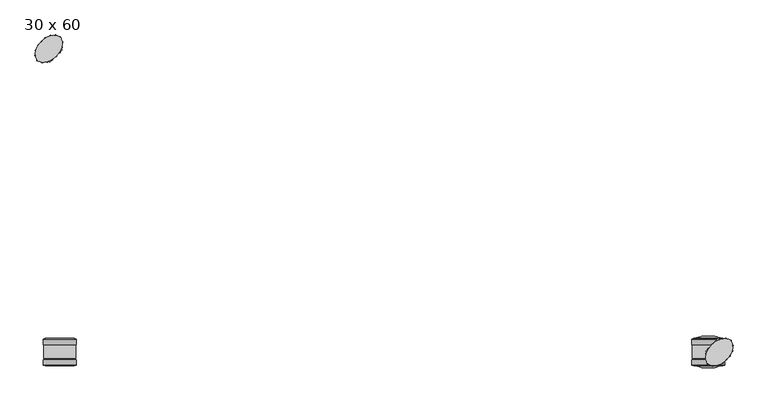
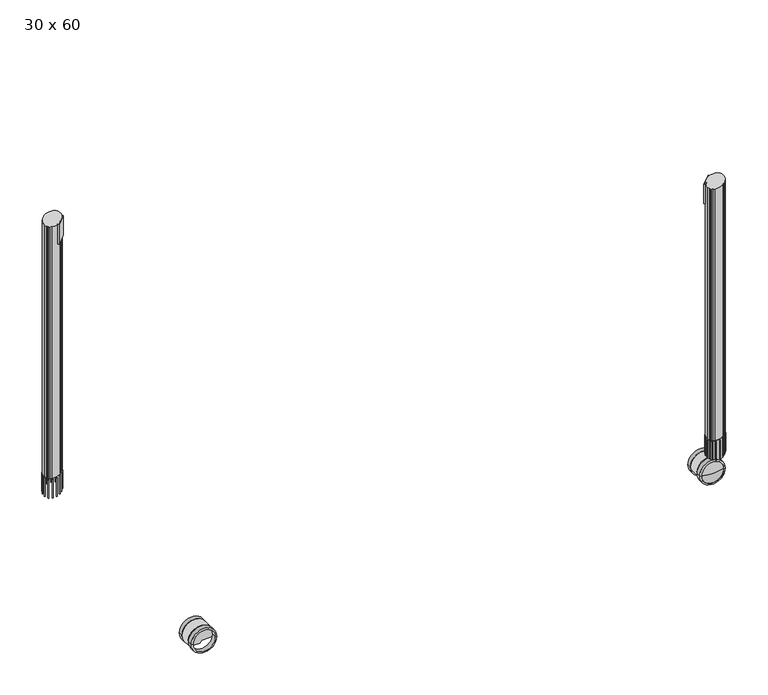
"""IFC4 building model written with IfcOpenShell, lengths in millimetres: furniture geometry, SmithSystem_AM_Desking_Education_Interchange_Student_Activity : 30 x 60."""

from ifc_helpers import new_model, si_unit, point, frame, frame_2d, origin, place, context, project, spatial, polyline, circle_curve, ellipse_curve, trimmed, segment, composite_curve, outline, extrude, source, transform, mapped, element, save
from ifc_brep_helpers import plane_surface, cylinder_surface, revolved_surface, advanced_brep


def furniture_30_x_60_d453b8d4(model_context):
    return source(origin(), model_context, "Body", "SolidModel", [
        extrude(outline(composite_curve([segment(trimmed(circle_curve(frame_2d((36.1138255, 717.7012908)), 1.27), [point((35.2157999, 716.8032652))], [point((37.0118511, 718.5993164))], False, "CARTESIAN"), True, "CONTINUOUS"), segment(polyline([(37.0118511, 718.5993164), (36.1138255, 717.7012908), (35.2157999, 716.8032652)]), True, "CONTINUOUS")], self_intersect=False)), frame((0.0, 0.0, 67.2639757), z_axis=(0.0, 0.0, 1.0), x_axis=(1.0, 0.0, 0.0)), (0.0, 0.0, 1.0), 52.9554897),
        extrude(outline(composite_curve([segment(trimmed(circle_curve(frame_2d((27.2784407, 678.3403563)), 1.27), [point((28.1764663, 677.4423306))], [point((26.3804151, 679.2383819))], False, "CARTESIAN"), True, "CONTINUOUS"), segment(polyline([(26.3804151, 679.2383819), (27.2784407, 678.3403563), (28.1764663, 677.4423306)]), True, "CONTINUOUS")], self_intersect=False)), frame((0.0, 0.0, 67.2639757), z_axis=(0.0, 0.0, 1.0), x_axis=(1.0, 0.0, 0.0)), (0.0, 0.0, 1.0), 52.9554897),
        extrude(outline(composite_curve([segment(polyline([(76.3727856, 725.63865), (75.47476, 726.5366756), (74.5767344, 727.4347012)]), True, "CONTINUOUS"), segment(trimmed(circle_curve(frame_2d((75.47476, 726.5366756)), 1.27), [point((74.5767344, 727.4347012))], [point((76.3727856, 725.63865))], False, "CARTESIAN"), True, "CONTINUOUS")], self_intersect=False)), frame((0.0, 0.0, 67.2639757), z_axis=(0.0, 0.0, 1.0), x_axis=(1.0, 0.0, 0.0)), (0.0, 0.0, 1.0), 52.9554897),
        extrude(outline(composite_curve([segment(polyline([(66.874417, 730.5560515), (65.6084721, 730.6574596), (64.3425272, 730.7588676)]), True, "CONTINUOUS"), segment(trimmed(circle_curve(frame_2d((65.6084721, 730.6574596)), 1.27), [point((64.3425272, 730.7588676))], [point((66.874417, 730.5560515))], False, "CARTESIAN"), True, "CONTINUOUS")], self_intersect=False)), frame((0.0, 0.0, 67.2639757), z_axis=(0.0, 0.0, 1.0), x_axis=(1.0, 0.0, 0.0)), (0.0, 0.0, 1.0), 52.9554897),
        extrude(outline(composite_curve([segment(polyline([(55.7954927, 730.039674), (54.5655031, 729.7234059), (53.3355135, 729.4071377)]), True, "CONTINUOUS"), segment(trimmed(circle_curve(frame_2d((54.5655031, 729.7234059)), 1.27), [point((53.3355135, 729.4071377))], [point((55.7954927, 730.039674))], False, "CARTESIAN"), True, "CONTINUOUS")], self_intersect=False)), frame((0.0, 0.0, 67.2639757), z_axis=(0.0, 0.0, 1.0), x_axis=(1.0, 0.0, 0.0)), (0.0, 0.0, 1.0), 52.9554897),
        extrude(outline(composite_curve([segment(polyline([(45.4570451, 725.8418329), (44.409403, 725.1239568), (43.3617609, 724.4060807)]), True, "CONTINUOUS"), segment(trimmed(circle_curve(frame_2d((44.409403, 725.1239568)), 1.27), [point((43.3617609, 724.4060807))], [point((45.4570451, 725.8418329))], False, "CARTESIAN"), True, "CONTINUOUS")], self_intersect=False)), frame((0.0, 0.0, 67.2639757), z_axis=(0.0, 0.0, 1.0), x_axis=(1.0, 0.0, 0.0)), (0.0, 0.0, 1.0), 52.9554897),
        extrude(outline(composite_curve([segment(trimmed(circle_curve(frame_2d((23.1576567, 688.2066442)), 1.27), [point((23.2590648, 686.9406993))], [point((23.0562487, 689.4725891))], False, "CARTESIAN"), True, "CONTINUOUS"), segment(polyline([(23.0562487, 689.4725891), (23.1576567, 688.2066442), (23.2590648, 686.9406993)]), True, "CONTINUOUS")], self_intersect=False)), frame((0.0, 0.0, 67.2639757), z_axis=(0.0, 0.0, 1.0), x_axis=(1.0, 0.0, 0.0)), (0.0, 0.0, 1.0), 52.9554897),
        extrude(outline(composite_curve([segment(trimmed(circle_curve(frame_2d((24.0917104, 699.2496132)), 1.27), [point((23.7754423, 698.0196236))], [point((24.4079786, 700.4796028))], False, "CARTESIAN"), True, "CONTINUOUS"), segment(polyline([(24.4079786, 700.4796028), (24.0917104, 699.2496132), (23.7754423, 698.0196236)]), True, "CONTINUOUS")], self_intersect=False)), frame((0.0, 0.0, 67.2639757), z_axis=(0.0, 0.0, 1.0), x_axis=(1.0, 0.0, 0.0)), (0.0, 0.0, 1.0), 52.9554897),
        extrude(outline(composite_curve([segment(trimmed(circle_curve(frame_2d((28.6911595, 709.4057133)), 1.27), [point((27.9732834, 708.3580712))], [point((29.4090356, 710.4533554))], False, "CARTESIAN"), True, "CONTINUOUS"), segment(polyline([(29.4090356, 710.4533554), (28.6911595, 709.4057133), (27.9732834, 708.3580712)]), True, "CONTINUOUS")], self_intersect=False)), frame((0.0, 0.0, 67.2639757), z_axis=(0.0, 0.0, 1.0), x_axis=(1.0, 0.0, 0.0)), (0.0, 0.0, 1.0), 52.9554897),
        extrude(outline(composite_curve([segment(polyline([(65.7413496, 686.2777154), (66.6393752, 687.175741), (67.5374009, 688.0737667)]), True, "CONTINUOUS"), segment(trimmed(circle_curve(frame_2d((66.6393752, 687.175741)), 1.27), [point((67.5374009, 688.0737667))], [point((65.7413496, 686.2777154))], False, "CARTESIAN"), True, "CONTINUOUS")], self_intersect=False)), frame((0.0, 0.0, 67.2639757), z_axis=(0.0, 0.0, 1.0), x_axis=(1.0, 0.0, 0.0)), (0.0, 0.0, 1.0), 52.9554897),
        extrude(outline(composite_curve([segment(trimmed(circle_curve(frame_2d((79.595544, 716.6703877)), 1.27), [point((79.4941359, 717.9363325))], [point((79.696952, 715.4044428))], False, "CARTESIAN"), True, "CONTINUOUS"), segment(polyline([(79.696952, 715.4044428), (79.595544, 716.6703877), (79.4941359, 717.9363325)]), True, "CONTINUOUS")], self_intersect=False)), frame((0.0, 0.0, 67.2639757), z_axis=(0.0, 0.0, 1.0), x_axis=(1.0, 0.0, 0.0)), (0.0, 0.0, 1.0), 52.9554897),
        extrude(outline(composite_curve([segment(trimmed(circle_curve(frame_2d((78.6614903, 705.6274187)), 1.27), [point((78.9777584, 706.8574083))], [point((78.3452221, 704.397429))], False, "CARTESIAN"), True, "CONTINUOUS"), segment(polyline([(78.3452221, 704.397429), (78.6614903, 705.6274187), (78.9777584, 706.8574083)]), True, "CONTINUOUS")], self_intersect=False)), frame((0.0, 0.0, 67.2639757), z_axis=(0.0, 0.0, 1.0), x_axis=(1.0, 0.0, 0.0)), (0.0, 0.0, 1.0), 52.9554897),
        extrude(outline(composite_curve([segment(trimmed(circle_curve(frame_2d((74.0620412, 695.4713185)), 1.27), [point((74.7799173, 696.5189606))], [point((73.3441651, 694.4236765))], False, "CARTESIAN"), True, "CONTINUOUS"), segment(polyline([(73.3441651, 694.4236765), (74.0620412, 695.4713185), (74.7799173, 696.5189606)]), True, "CONTINUOUS")], self_intersect=False)), frame((0.0, 0.0, 67.2639757), z_axis=(0.0, 0.0, 1.0), x_axis=(1.0, 0.0, 0.0)), (0.0, 0.0, 1.0), 52.9554897),
        extrude(outline(composite_curve([segment(polyline([(35.8787838, 674.3209803), (37.1447286, 674.2195723), (38.4106735, 674.1181643)]), True, "CONTINUOUS"), segment(trimmed(circle_curve(frame_2d((37.1447286, 674.2195723)), 1.27), [point((38.4106735, 674.1181643))], [point((35.8787838, 674.3209803))], False, "CARTESIAN"), True, "CONTINUOUS")], self_intersect=False)), frame((0.0, 0.0, 67.2639757), z_axis=(0.0, 0.0, 1.0), x_axis=(1.0, 0.0, 0.0)), (0.0, 0.0, 1.0), 52.9554897),
        extrude(outline(composite_curve([segment(polyline([(46.957708, 674.8373578), (48.1876976, 675.153626), (49.4176872, 675.4698941)]), True, "CONTINUOUS"), segment(trimmed(circle_curve(frame_2d((48.1876976, 675.153626)), 1.27), [point((49.4176872, 675.4698941))], [point((46.957708, 674.8373578))], False, "CARTESIAN"), True, "CONTINUOUS")], self_intersect=False)), frame((0.0, 0.0, 67.2639757), z_axis=(0.0, 0.0, 1.0), x_axis=(1.0, 0.0, 0.0)), (0.0, 0.0, 1.0), 52.9554897),
        extrude(outline(composite_curve([segment(polyline([(57.2961557, 679.035199), (58.3437977, 679.7530751), (59.3914398, 680.4709511)]), True, "CONTINUOUS"), segment(trimmed(circle_curve(frame_2d((58.3437977, 679.7530751)), 1.27), [point((59.3914398, 680.4709511))], [point((57.2961557, 679.035199))], False, "CARTESIAN"), True, "CONTINUOUS")], self_intersect=False)), frame((0.0, 0.0, 67.2639757), z_axis=(0.0, 0.0, 1.0), x_axis=(1.0, 0.0, 0.0)), (0.0, 0.0, 1.0), 52.9554897),
        extrude(outline(composite_curve([segment(trimmed(circle_curve(frame_2d((62.7473847, 698.2519365)), 32.5855406), [point((39.7059279, 721.2933933))], [point((66.7185631, 730.5945895))], False, "CARTESIAN"), True, "CONTINUOUS"), segment(trimmed(circle_curve(frame_2d((64.3208331, 711.0666455)), 19.6745954), [point((66.7185631, 730.5945895))], [point((71.8715833, 729.2346359))], False, "CARTESIAN"), True, "CONTINUOUS"), segment(trimmed(circle_curve(frame_2d((68.4363296, 720.9690127)), 8.9510611), [point((71.8715833, 729.2346359))], [point((74.7656856, 727.2983687))], False, "CARTESIAN"), True, "CONTINUOUS"), segment(polyline([(74.7656856, 727.2983687), (75.5010694, 726.5629849), (76.2364532, 725.8276012)]), True, "CONTINUOUS"), segment(trimmed(circle_curve(frame_2d((69.9070972, 719.4982452)), 8.9510611), [point((76.2364532, 725.8276012))], [point((78.1727203, 722.9334989))], False, "CARTESIAN"), True, "CONTINUOUS"), segment(trimmed(circle_curve(frame_2d((60.0047299, 715.3827486)), 19.6745954), [point((78.1727203, 722.9334989))], [point((79.5326739, 717.7804787))], False, "CARTESIAN"), True, "CONTINUOUS"), segment(trimmed(circle_curve(frame_2d((47.190021, 713.8093002)), 32.5855406), [point((79.5326739, 717.7804787))], [point((70.2314777, 690.7678435))], False, "CARTESIAN"), True, "CONTINUOUS"), segment(polyline([(70.2314777, 690.7678435), (66.6393752, 687.175741), (63.0472728, 683.5836386)]), True, "CONTINUOUS"), segment(trimmed(circle_curve(frame_2d((40.0058161, 706.6250953)), 32.5855406), [point((63.0472728, 683.5836386))], [point((36.0346376, 674.2824424))], False, "CARTESIAN"), True, "CONTINUOUS"), segment(trimmed(circle_curve(frame_2d((38.4323677, 693.8103864)), 19.6745954), [point((36.0346376, 674.2824424))], [point((30.8816174, 675.6423959))], False, "CARTESIAN"), True, "CONTINUOUS"), segment(trimmed(circle_curve(frame_2d((34.3168711, 683.9080191)), 8.9510611), [point((30.8816174, 675.6423959))], [point((27.9875151, 677.5786631))], False, "CARTESIAN"), True, "CONTINUOUS"), segment(polyline([(27.9875151, 677.5786631), (27.2521313, 678.3140469), (26.5167476, 679.0494307)]), True, "CONTINUOUS"), segment(trimmed(circle_curve(frame_2d((32.8461036, 685.3787867)), 8.9510611), [point((26.5167476, 679.0494307))], [point((24.5804804, 681.943533))], False, "CARTESIAN"), True, "CONTINUOUS"), segment(trimmed(circle_curve(frame_2d((42.7484708, 689.4942832)), 19.6745954), [point((24.5804804, 681.943533))], [point((23.2205268, 687.0965532))], False, "CARTESIAN"), True, "CONTINUOUS"), segment(trimmed(circle_curve(frame_2d((55.5631798, 691.0677316)), 32.5855406), [point((23.2205268, 687.0965532))], [point((32.521723, 714.1091884))], False, "CARTESIAN"), True, "CONTINUOUS"), segment(polyline([(32.521723, 714.1091884), (36.1138255, 717.7012908), (39.7059279, 721.2933933)]), True, "CONTINUOUS")], self_intersect=False)), frame((0.0, 0.0, 122.9260451), z_axis=(0.0, 0.0, 1.0), x_axis=(1.0, 0.0, 0.0)), (0.0, 0.0, 1.0), 719.5839191),
        extrude(outline(polyline([(50.0797748, 676.8390473), (76.921403, 703.6806755), (80.2662632, 700.3358152), (53.4246351, 673.4941871), (50.0797748, 676.8390473)])), frame((0.0, 0.0, 786.4834421), z_axis=(0.0, 0.0, 1.0), x_axis=(1.0, 0.0, 0.0)), (0.0, 0.0, 1.0), 56.0265221),
        advanced_brep(
        [(1479.3682807, 75.4828432, 35.017382), (1479.3682807, 88.7241133, 35.017382), (1418.7629669, 88.7241133, 35.017382), (1418.7629669, 75.4828432, 35.017382), (1483.6326573, 75.4828432, 35.017382), (1414.4985903, 75.4828432, 35.017382), (1483.6326573, 87.2525266, 35.017382), (1414.4985903, 87.2525266, 35.017382)],
        [
            (0, 1),
            (1, 2, circle_curve(frame((1449.0656238, 88.7241133, 35.017382), z_axis=(0.0, 1.0, 0.0), x_axis=(-1.0000000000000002, 0.0, 0.0)), 30.3026569)),
            (2, 3),
            (3, 0, circle_curve(frame((1449.0656238, 75.4828432, 35.017382), z_axis=(0.0, -1.0, 0.0), x_axis=(-1.0000000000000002, 0.0, 0.0)), 30.3026569)),
            (2, 1, circle_curve(frame((1449.0656238, 88.7241133, 35.017382), z_axis=(0.0, 1.0, 0.0), x_axis=(-1.0000000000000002, 0.0, 0.0)), 30.3026569)),
            (0, 3, circle_curve(frame((1449.0656238, 75.4828432, 35.017382), z_axis=(0.0, -1.0, 0.0), x_axis=(-1.0000000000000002, 0.0, 0.0)), 30.3026569)),
            (4, 0),
            (3, 5),
            (5, 4, circle_curve(frame((1449.0656238, 75.4828432, 35.017382), z_axis=(0.0, -1.0, 0.0), x_axis=(-1.0000000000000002, 0.0, 0.0)), 34.5670335)),
            (4, 5, circle_curve(frame((1449.0656238, 75.4828432, 35.017382), z_axis=(0.0, -1.0, 0.0), x_axis=(-1.0000000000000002, 0.0, 0.0)), 34.5670335)),
            (6, 4),
            (5, 7),
            (7, 6, circle_curve(frame((1449.0656238, 87.2525266, 35.017382), z_axis=(0.0, -1.0, 0.0), x_axis=(-1.0000000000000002, 0.0, 0.0)), 34.5670335)),
            (6, 7, circle_curve(frame((1449.0656238, 87.2525266, 35.017382), z_axis=(0.0, -1.0, 0.0), x_axis=(-1.0000000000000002, 0.0, 0.0)), 34.5670335)),
            (1, 6),
            (7, 2),
        ],
        [
            revolved_surface(polyline([(1418.7629668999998, 88.7241133, 35.017382), (1418.7629668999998, 75.4828432, 35.017382)]), (1449.0656238, 75.4828432, 35.017382), (0.0, 1.0, 0.0)),
            plane_surface(frame((1449.0656238, 75.4828432, 35.017382), z_axis=(0.0, -1.0, 0.0), x_axis=(-1.0, 0.0, 0.0))),
            cylinder_surface(frame((1449.0656238, 75.4828432, 35.017382), z_axis=(0.0, 1.0, 0.0), x_axis=(-1.0000000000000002, 0.0, 0.0)), 34.5670335),
            revolved_surface(polyline([(1414.4985903, 87.2525266, 35.017382), (1418.7629669, 88.7241133, 35.017382)]), (1449.0656238, 75.4828432, 35.017382), (0.0, 1.0, 0.0)),
        ],
        [
            (0, [[1, 2, 3, 4]]),
            (0, [[-3, 5, -1, 6]]),
            (1, [[7, -4, 8, 9]]),
            (1, [[-8, -6, -7, 10]]),
            (2, [[11, -9, 12, 13]]),
            (2, [[-12, -10, -11, 14]]),
            (3, [[15, -13, 16, -2]]),
            (3, [[-16, -14, -15, -5]]),
        ],
    ),
        advanced_brep(
        [(1483.6326573, 31.8704415, 35.017382), (1479.3682807, 30.3988548, 35.017382), (1418.7629669, 30.3988548, 35.017382), (1414.4985903, 31.8704415, 35.017382), (1483.6326573, 43.6401249, 35.017382), (1414.4985903, 43.6401249, 35.017382), (1479.3682807, 43.6401249, 35.017382), (1418.7629669, 43.6401249, 35.017382)],
        [
            (0, 1),
            (1, 2, circle_curve(frame((1449.0656238, 30.3988548, 35.017382), z_axis=(0.0, 1.0, 0.0), x_axis=(-1.0000000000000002, 0.0, 0.0)), 30.3026569)),
            (2, 3),
            (3, 0, circle_curve(frame((1449.0656238, 31.8704415, 35.017382), z_axis=(0.0, -1.0, 0.0), x_axis=(-1.0000000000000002, 0.0, 0.0)), 34.5670335)),
            (2, 1, circle_curve(frame((1449.0656238, 30.3988548, 35.017382), z_axis=(0.0, 1.0, 0.0), x_axis=(-1.0000000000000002, 0.0, 0.0)), 30.3026569)),
            (0, 3, circle_curve(frame((1449.0656238, 31.8704415, 35.017382), z_axis=(0.0, -1.0, 0.0), x_axis=(-1.0000000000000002, 0.0, 0.0)), 34.5670335)),
            (4, 0),
            (3, 5),
            (5, 4, circle_curve(frame((1449.0656238, 43.6401249, 35.017382), z_axis=(0.0, -1.0, 0.0), x_axis=(-1.0000000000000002, 0.0, 0.0)), 34.5670335)),
            (4, 5, circle_curve(frame((1449.0656238, 43.6401249, 35.017382), z_axis=(0.0, -1.0, 0.0), x_axis=(-1.0000000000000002, 0.0, 0.0)), 34.5670335)),
            (6, 4),
            (5, 7),
            (7, 6, circle_curve(frame((1449.0656238, 43.6401249, 35.017382), z_axis=(0.0, -1.0, 0.0), x_axis=(-1.0000000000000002, 0.0, 0.0)), 30.3026569)),
            (6, 7, circle_curve(frame((1449.0656238, 43.6401249, 35.017382), z_axis=(0.0, -1.0, 0.0), x_axis=(-1.0000000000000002, 0.0, 0.0)), 30.3026569)),
            (1, 6),
            (7, 2),
        ],
        [
            revolved_surface(polyline([(1418.7629669, 30.3988548, 35.017382), (1414.4985903, 31.8704415, 35.017382)]), (1449.0656238, 75.4828432, 35.017382), (0.0, 1.0, 0.0)),
            cylinder_surface(frame((1449.0656238, 75.4828432, 35.017382), z_axis=(0.0, 1.0, 0.0), x_axis=(-1.0000000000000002, 0.0, 0.0)), 34.5670335),
            plane_surface(frame((1449.0656238, 43.6401249, 35.017382), z_axis=(0.0, 1.0, 0.0), x_axis=(-1.0, 0.0, 0.0))),
            revolved_surface(polyline([(1418.7629668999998, 43.6401249, 35.017382), (1418.7629668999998, 30.398854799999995, 35.017382)]), (1449.0656238, 75.4828432, 35.017382), (0.0, 1.0, 0.0)),
        ],
        [
            (0, [[1, 2, 3, 4]]),
            (0, [[-3, 5, -1, 6]]),
            (1, [[7, -4, 8, 9]]),
            (1, [[-8, -6, -7, 10]]),
            (2, [[11, -9, 12, 13]]),
            (2, [[-12, -10, -11, 14]]),
            (3, [[15, -13, 16, -2]]),
            (3, [[-16, -14, -15, -5]]),
        ],
    ),
        extrude(outline(composite_curve([segment(polyline([(19.2150301, 1452.4697558), (19.2150301, 1479.476395)]), True, "CONTINUOUS"), segment(trimmed(circle_curve(frame_2d((35.017382, 1449.0656238)), 34.2714069), [point((19.2150301, 1479.476395))], [point((30.4371053, 1415.1016665))], False, "CARTESIAN"), True, "CONTINUOUS"), segment(polyline([(30.4371053, 1415.1016665), (25.5146264, 1423.9644339), (25.5146264, 1446.1701594), (19.2150301, 1452.4697558)]), True, "CONTINUOUS")], self_intersect=False)), frame((0.0, 46.7652481, 0.0), z_axis=(0.0, 1.0, 0.0), x_axis=(0.0, 0.0, 1.0)), (0.0, 0.0, 1.0), 26.9875),
        advanced_brep(
        [(1479.3682807, 75.4828432, 35.017382), (1449.0656238, 75.4828432, 35.017382), (1418.7629669, 75.4828432, 35.017382), (1449.0656238, 93.8056302, 35.017382), (1479.3682807, 88.7241133, 35.017382), (1418.7629669, 88.7241133, 35.017382)],
        [
            (0, 1),
            (1, 2),
            (2, 0, circle_curve(frame((1449.0656238, 75.4828432, 35.017382), z_axis=(0.0, -1.0, 0.0), x_axis=(-1.0000000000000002, 0.0, 0.0)), 30.3026569)),
            (0, 2, circle_curve(frame((1449.0656238, 75.4828432, 35.017382), z_axis=(0.0, -1.0, 0.0), x_axis=(-1.0000000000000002, 0.0, 0.0)), 30.3026569)),
            (3, 4, circle_curve(frame((1449.0656238, 0.9128138, 35.017382), z_axis=(0.0, 0.0, -1.0000000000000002), x_axis=(0.0, -1.0, 0.0)), 92.8928164)),
            (4, 5, circle_curve(frame((1449.0656238, 88.7241133, 35.017382), z_axis=(0.0, 1.0, 0.0), x_axis=(-1.0000000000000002, 0.0, 0.0)), 30.3026569)),
            (5, 3, circle_curve(frame((1449.0656238, 0.9128138, 35.017382), z_axis=(0.0, 0.0, -1.0000000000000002), x_axis=(0.0, -1.0, 0.0)), 92.8928164)),
            (5, 4, circle_curve(frame((1449.0656238, 88.7241133, 35.017382), z_axis=(0.0, 1.0, 0.0), x_axis=(-1.0000000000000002, 0.0, 0.0)), 30.3026569)),
            (4, 0),
            (2, 5),
        ],
        [
            plane_surface(frame((1449.0656238, 75.4828432, 35.017382), z_axis=(0.0, -1.0, 0.0), x_axis=(-1.0, 0.0, 0.0))),
            revolved_surface(trimmed(ellipse_curve(frame((1449.0656238, 0.9128138, 35.017382), z_axis=(0.0, 0.0, -1.0000000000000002), x_axis=(0.0, -1.0, 0.0)), 92.8928164, 92.8928164), [point((1418.7629669, 88.7241133, 35.017382))], [point((1449.0656238, 93.8056302, 35.017382))], True, "CARTESIAN"), (1449.0656238, 75.4828432, 35.017382), (0.0, 1.0, 0.0)),
            cylinder_surface(frame((1449.0656238, 75.4828432, 35.017382), z_axis=(0.0, 1.0, 0.0), x_axis=(-1.0000000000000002, 0.0, 0.0)), 30.3026569),
        ],
        [
            (0, [[1, 2, 3]]),
            (0, [[-2, -1, 4]]),
            (1, [[5, 6, 7]]),
            (1, [[-7, 8, -5]]),
            (2, [[9, -3, 10, -6]]),
            (2, [[-10, -4, -9, -8]]),
        ],
    ),
        advanced_brep(
        [(1479.3682807, 44.8805061, 35.017382), (1479.3682807, 31.639236, 35.017382), (1418.7629669, 31.639236, 35.017382), (1418.7629669, 44.8805061, 35.017382), (1449.0656238, 26.5577191, 35.017382), (1449.0656238, 44.8805061, 35.017382)],
        [
            (0, 1),
            (1, 2, circle_curve(frame((1449.0656238, 31.639236, 35.017382), z_axis=(0.0, 1.0, 0.0), x_axis=(-1.0000000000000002, 0.0, 0.0)), 30.3026569)),
            (2, 3),
            (3, 0, circle_curve(frame((1449.0656238, 44.8805061, 35.017382), z_axis=(0.0, -1.0, 0.0), x_axis=(-1.0000000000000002, 0.0, 0.0)), 30.3026569)),
            (2, 1, circle_curve(frame((1449.0656238, 31.639236, 35.017382), z_axis=(0.0, 1.0, 0.0), x_axis=(-1.0000000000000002, 0.0, 0.0)), 30.3026569)),
            (0, 3, circle_curve(frame((1449.0656238, 44.8805061, 35.017382), z_axis=(0.0, -1.0, 0.0), x_axis=(-1.0000000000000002, 0.0, 0.0)), 30.3026569)),
            (1, 4, circle_curve(frame((1449.0656238, 119.4505355, 35.017382), z_axis=(0.0, 0.0, -1.0000000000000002), x_axis=(0.0, -1.0, 0.0)), 92.8928164)),
            (4, 2, circle_curve(frame((1449.0656238, 119.4505355, 35.017382), z_axis=(0.0, 0.0, -1.0000000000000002), x_axis=(0.0, -1.0, 0.0)), 92.8928164)),
            (5, 0),
            (3, 5),
        ],
        [
            cylinder_surface(frame((1449.0656238, 75.4828432, 35.017382), z_axis=(0.0, 1.0, 0.0), x_axis=(-1.0000000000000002, 0.0, 0.0)), 30.3026569),
            revolved_surface(trimmed(ellipse_curve(frame((1449.0656238, 119.4505355, 35.017382), z_axis=(0.0, 0.0, -1.0000000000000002), x_axis=(0.0, -1.0, 0.0)), 92.8928164, 92.8928164), [point((1449.0656238, 26.5577191, 35.017382))], [point((1418.7629669, 31.639236, 35.017382))], True, "CARTESIAN"), (1449.0656238, 75.4828432, 35.017382), (0.0, 1.0, 0.0)),
            plane_surface(frame((1449.0656238, 44.8805061, 35.017382), z_axis=(0.0, 1.0, 0.0), x_axis=(-1.0, 0.0, 0.0))),
        ],
        [
            (0, [[1, 2, 3, 4]]),
            (0, [[-3, 5, -1, 6]]),
            (1, [[7, 8, -2]]),
            (1, [[-8, -7, -5]]),
            (2, [[9, -4, 10]]),
            (2, [[-10, -6, -9]]),
        ],
    ),
        advanced_brep(
        [(1472.3098504, 59.5614841, 82.55), (1487.4315397, 44.4397948, 82.55), (1457.1881611, 74.6831734, 82.55), (1479.1455485, 52.725786, 44.141232), (1472.3098504, 59.5614841, 44.141232), (1465.4741524, 66.3971821, 44.141232), (1479.1455485, 52.725786, 70.5739), (1465.4741524, 66.3971821, 70.5739), (1475.4087581, 56.4625764, 70.5739), (1469.2109428, 62.6603917, 70.5739), (1475.4087581, 56.4625764, 72.4789), (1469.2109428, 62.6603917, 72.4789), (1479.1455485, 52.725786, 72.4789), (1465.4741524, 66.3971821, 72.4789), (1479.1455485, 52.725786, 77.5589), (1465.4741524, 66.3971821, 77.5589), (1487.4315397, 44.4397948, 77.5589), (1457.1881611, 74.6831734, 77.5589)],
        [
            (0, 1),
            (1, 2, circle_curve(frame((1472.3098504, 59.5614841, 82.55), z_axis=(0.0, 0.0, 1.0), x_axis=(-0.7071067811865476, 0.7071067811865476, 0.0)), 21.3852981)),
            (2, 0),
            (2, 1, circle_curve(frame((1472.3098504, 59.5614841, 82.55), z_axis=(0.0, 0.0, 1.0), x_axis=(-0.7071067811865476, 0.7071067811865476, 0.0)), 21.3852981)),
            (3, 4),
            (4, 5),
            (5, 3, circle_curve(frame((1472.3098504, 59.5614841, 44.141232), z_axis=(0.0, 0.0, -1.0), x_axis=(-0.7071067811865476, 0.7071067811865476, 0.0)), 9.6671369)),
            (3, 5, circle_curve(frame((1472.3098504, 59.5614841, 44.141232), z_axis=(0.0, 0.0, -1.0), x_axis=(-0.7071067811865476, 0.7071067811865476, 0.0)), 9.6671369)),
            (6, 3),
            (5, 7),
            (7, 6, circle_curve(frame((1472.3098504, 59.5614841, 70.5739), z_axis=(0.0, 0.0, -1.0), x_axis=(-0.7071067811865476, 0.7071067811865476, 0.0)), 9.6671369)),
            (6, 7, circle_curve(frame((1472.3098504, 59.5614841, 70.5739), z_axis=(0.0, 0.0, -1.0), x_axis=(-0.7071067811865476, 0.7071067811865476, 0.0)), 9.6671369)),
            (8, 6),
            (7, 9),
            (9, 8, circle_curve(frame((1472.3098504, 59.5614841, 70.5739), z_axis=(0.0, 0.0, -1.0), x_axis=(-0.7071067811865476, 0.7071067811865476, 0.0)), 4.3825172)),
            (8, 9, circle_curve(frame((1472.3098504, 59.5614841, 70.5739), z_axis=(0.0, 0.0, -1.0), x_axis=(-0.7071067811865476, 0.7071067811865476, 0.0)), 4.3825172)),
            (10, 8),
            (9, 11),
            (11, 10, circle_curve(frame((1472.3098504, 59.5614841, 72.4789), z_axis=(0.0, 0.0, -1.0), x_axis=(-0.7071067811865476, 0.7071067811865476, 0.0)), 4.3825172)),
            (10, 11, circle_curve(frame((1472.3098504, 59.5614841, 72.4789), z_axis=(0.0, 0.0, -1.0), x_axis=(-0.7071067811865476, 0.7071067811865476, 0.0)), 4.3825172)),
            (12, 10),
            (11, 13),
            (13, 12, circle_curve(frame((1472.3098504, 59.5614841, 72.4789), z_axis=(0.0, 0.0, -1.0), x_axis=(-0.7071067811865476, 0.7071067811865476, 0.0)), 9.6671369)),
            (12, 13, circle_curve(frame((1472.3098504, 59.5614841, 72.4789), z_axis=(0.0, 0.0, -1.0), x_axis=(-0.7071067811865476, 0.7071067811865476, 0.0)), 9.6671369)),
            (14, 12),
            (13, 15),
            (15, 14, circle_curve(frame((1472.3098504, 59.5614841, 77.5589), z_axis=(0.0, 0.0, -1.0), x_axis=(-0.7071067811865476, 0.7071067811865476, 0.0)), 9.6671369)),
            (14, 15, circle_curve(frame((1472.3098504, 59.5614841, 77.5589), z_axis=(0.0, 0.0, -1.0), x_axis=(-0.7071067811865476, 0.7071067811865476, 0.0)), 9.6671369)),
            (16, 14),
            (15, 17),
            (17, 16, circle_curve(frame((1472.3098504, 59.5614841, 77.5589), z_axis=(0.0, 0.0, -1.0), x_axis=(-0.7071067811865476, 0.7071067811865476, 0.0)), 21.3852981)),
            (16, 17, circle_curve(frame((1472.3098504, 59.5614841, 77.5589), z_axis=(0.0, 0.0, -1.0), x_axis=(-0.7071067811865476, 0.7071067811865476, 0.0)), 21.3852981)),
            (1, 16),
            (17, 2),
        ],
        [
            plane_surface(frame((1472.3098504, 59.5614841, 82.55), z_axis=(0.0, 0.0, 1.0000000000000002), x_axis=(-0.7071067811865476, 0.7071067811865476, 0.0))),
            plane_surface(frame((1472.3098504, 59.5614841, 44.141232), z_axis=(0.0, 0.0, -1.0000000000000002), x_axis=(-0.7071067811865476, 0.7071067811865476, 0.0))),
            cylinder_surface(frame((1472.3098504, 59.5614841, 56.841232), z_axis=(0.0, 0.0, 1.0), x_axis=(-0.7071067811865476, 0.7071067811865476, 0.0)), 9.6671369),
            plane_surface(frame((1472.3098504, 59.5614841, 70.5739), z_axis=(0.0, 0.0, 1.0000000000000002), x_axis=(-0.7071067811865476, 0.7071067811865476, 0.0))),
            cylinder_surface(frame((1472.3098504, 59.5614841, 56.841232), z_axis=(0.0, 0.0, 1.0), x_axis=(-0.7071067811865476, 0.7071067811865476, 0.0)), 4.3825172),
            plane_surface(frame((1472.3098504, 59.5614841, 72.4789), z_axis=(0.0, 0.0, -1.0000000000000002), x_axis=(-0.7071067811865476, 0.7071067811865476, 0.0))),
            plane_surface(frame((1472.3098504, 59.5614841, 77.5589), z_axis=(0.0, 0.0, -1.0000000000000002), x_axis=(-0.7071067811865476, 0.7071067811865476, 0.0))),
            cylinder_surface(frame((1472.3098504, 59.5614841, 56.841232), z_axis=(0.0, 0.0, 1.0), x_axis=(-0.7071067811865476, 0.7071067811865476, 0.0)), 21.3852981),
        ],
        [
            (0, [[1, 2, 3]]),
            (0, [[-3, 4, -1]]),
            (1, [[5, 6, 7]]),
            (1, [[-6, -5, 8]]),
            (2, [[9, -7, 10, 11]]),
            (2, [[-10, -8, -9, 12]]),
            (3, [[13, -11, 14, 15]]),
            (3, [[-14, -12, -13, 16]]),
            (4, [[17, -15, 18, 19]]),
            (4, [[-18, -16, -17, 20]]),
            (5, [[21, -19, 22, 23]]),
            (5, [[-22, -20, -21, 24]]),
            (2, [[25, -23, 26, 27]]),
            (2, [[-26, -24, -25, 28]]),
            (6, [[29, -27, 30, 31]]),
            (6, [[-30, -28, -29, 32]]),
            (7, [[33, -31, 34, -2]]),
            (7, [[-34, -32, -33, -4]]),
        ],
    ),
        extrude(outline(composite_curve([segment(polyline([(1453.4549731, 71.2321565), (1457.0470756, 74.824259), (1460.639178, 78.4163614)]), True, "CONTINUOUS"), segment(trimmed(circle_curve(frame_2d((1483.6806347, 55.3749047)), 32.5855406), [point((1460.639178, 78.4163614))], [point((1487.6518132, 87.7175576))], False, "CARTESIAN"), True, "CONTINUOUS"), segment(trimmed(circle_curve(frame_2d((1485.2540831, 68.1896136)), 19.6745954), [point((1487.6518132, 87.7175576))], [point((1492.8048334, 86.3576041))], False, "CARTESIAN"), True, "CONTINUOUS"), segment(trimmed(circle_curve(frame_2d((1489.3695797, 78.0919809)), 8.9510611), [point((1492.8048334, 86.3576041))], [point((1495.6989357, 84.4213369))], False, "CARTESIAN"), True, "CONTINUOUS"), segment(polyline([(1495.6989357, 84.4213369), (1496.4343195, 83.6859531), (1497.1697032, 82.9505693)]), True, "CONTINUOUS"), segment(trimmed(circle_curve(frame_2d((1490.8403472, 76.6212133)), 8.9510611), [point((1497.1697032, 82.9505693))], [point((1499.1059704, 80.056467))], False, "CARTESIAN"), True, "CONTINUOUS"), segment(trimmed(circle_curve(frame_2d((1480.93798, 72.5057168)), 19.6745954), [point((1499.1059704, 80.056467))], [point((1500.465924, 74.9034468))], False, "CARTESIAN"), True, "CONTINUOUS"), segment(trimmed(circle_curve(frame_2d((1468.123271, 70.9322684)), 32.5855406), [point((1500.465924, 74.9034468))], [point((1491.1647278, 47.8908116))], False, "CARTESIAN"), True, "CONTINUOUS"), segment(polyline([(1491.1647278, 47.8908116), (1487.5726253, 44.2987092), (1483.9805229, 40.7066067)]), True, "CONTINUOUS"), segment(trimmed(circle_curve(frame_2d((1460.9390661, 63.7480635)), 32.5855406), [point((1483.9805229, 40.7066067))], [point((1456.9678877, 31.4054105))], False, "CARTESIAN"), True, "CONTINUOUS"), segment(trimmed(circle_curve(frame_2d((1459.3656177, 50.9333545)), 19.6745954), [point((1456.9678877, 31.4054105))], [point((1451.8148675, 32.7653641))], False, "CARTESIAN"), True, "CONTINUOUS"), segment(trimmed(circle_curve(frame_2d((1455.2501212, 41.0309873)), 8.9510611), [point((1451.8148675, 32.7653641))], [point((1448.9207652, 34.7016313))], False, "CARTESIAN"), True, "CONTINUOUS"), segment(polyline([(1448.9207652, 34.7016313), (1448.1853814, 35.4370151), (1447.4499976, 36.1723988)]), True, "CONTINUOUS"), segment(trimmed(circle_curve(frame_2d((1453.7793536, 42.5017548)), 8.9510611), [point((1447.4499976, 36.1723988))], [point((1445.5137305, 39.0665011))], False, "CARTESIAN"), True, "CONTINUOUS"), segment(trimmed(circle_curve(frame_2d((1463.6817209, 46.6172514)), 19.6745954), [point((1445.5137305, 39.0665011))], [point((1444.1537769, 44.2195213))], False, "CARTESIAN"), True, "CONTINUOUS"), segment(trimmed(circle_curve(frame_2d((1476.4964298, 48.1906998)), 32.5855406), [point((1444.1537769, 44.2195213))], [point((1453.4549731, 71.2321565))], False, "CARTESIAN"), True, "CONTINUOUS")], self_intersect=False)), frame((0.0, 0.0, 63.4997351), z_axis=(0.0, 0.0, 1.0), x_axis=(1.0, 0.0, 0.0)), (0.0, 0.0, 1.0), 59.42631),
        extrude(outline(composite_curve([segment(trimmed(circle_curve(frame_2d((1487.5726253, 44.2987092)), 1.27), [point((1488.4706509, 45.1967348))], [point((1486.6745997, 43.4006836))], False, "CARTESIAN"), True, "CONTINUOUS"), segment(polyline([(1486.6745997, 43.4006836), (1487.5726253, 44.2987092), (1488.4706509, 45.1967348)]), True, "CONTINUOUS")], self_intersect=False)), frame((0.0, 0.0, 67.2639757), z_axis=(0.0, 0.0, 1.0), x_axis=(1.0, 0.0, 0.0)), (0.0, 0.0, 1.0), 52.9554897),
        extrude(outline(composite_curve([segment(trimmed(circle_curve(frame_2d((1496.4080101, 83.6596437)), 1.27), [point((1495.5099845, 84.5576694))], [point((1497.3060357, 82.7616181))], False, "CARTESIAN"), True, "CONTINUOUS"), segment(polyline([(1497.3060357, 82.7616181), (1496.4080101, 83.6596437), (1495.5099845, 84.5576694)]), True, "CONTINUOUS")], self_intersect=False)), frame((0.0, 0.0, 67.2639757), z_axis=(0.0, 0.0, 1.0), x_axis=(1.0, 0.0, 0.0)), (0.0, 0.0, 1.0), 52.9554897),
        extrude(outline(composite_curve([segment(polyline([(1447.3136652, 36.36135), (1448.2116908, 35.4633244), (1449.1097164, 34.5652988)]), True, "CONTINUOUS"), segment(trimmed(circle_curve(frame_2d((1448.2116908, 35.4633244)), 1.27), [point((1449.1097164, 34.5652988))], [point((1447.3136652, 36.36135))], False, "CARTESIAN"), True, "CONTINUOUS")], self_intersect=False)), frame((0.0, 0.0, 67.2639757), z_axis=(0.0, 0.0, 1.0), x_axis=(1.0, 0.0, 0.0)), (0.0, 0.0, 1.0), 52.9554897),
        extrude(outline(composite_curve([segment(polyline([(1456.8120338, 31.4439485), (1458.0779787, 31.3425404), (1459.3439236, 31.2411324)]), True, "CONTINUOUS"), segment(trimmed(circle_curve(frame_2d((1458.0779787, 31.3425404)), 1.27), [point((1459.3439236, 31.2411324))], [point((1456.8120338, 31.4439485))], False, "CARTESIAN"), True, "CONTINUOUS")], self_intersect=False)), frame((0.0, 0.0, 67.2639757), z_axis=(0.0, 0.0, 1.0), x_axis=(1.0, 0.0, 0.0)), (0.0, 0.0, 1.0), 52.9554897),
        extrude(outline(composite_curve([segment(polyline([(1467.8909581, 31.960326), (1469.1209477, 32.2765941), (1470.3509373, 32.5928623)]), True, "CONTINUOUS"), segment(trimmed(circle_curve(frame_2d((1469.1209477, 32.2765941)), 1.27), [point((1470.3509373, 32.5928623))], [point((1467.8909581, 31.960326))], False, "CARTESIAN"), True, "CONTINUOUS")], self_intersect=False)), frame((0.0, 0.0, 67.2639757), z_axis=(0.0, 0.0, 1.0), x_axis=(1.0, 0.0, 0.0)), (0.0, 0.0, 1.0), 52.9554897),
        extrude(outline(composite_curve([segment(polyline([(1478.2294057, 36.1581671), (1479.2770478, 36.8760432), (1480.3246899, 37.5939193)]), True, "CONTINUOUS"), segment(trimmed(circle_curve(frame_2d((1479.2770478, 36.8760432)), 1.27), [point((1480.3246899, 37.5939193))], [point((1478.2294057, 36.1581671))], False, "CARTESIAN"), True, "CONTINUOUS")], self_intersect=False)), frame((0.0, 0.0, 67.2639757), z_axis=(0.0, 0.0, 1.0), x_axis=(1.0, 0.0, 0.0)), (0.0, 0.0, 1.0), 52.9554897),
        extrude(outline(composite_curve([segment(trimmed(circle_curve(frame_2d((1500.5287941, 73.7933558)), 1.27), [point((1500.427386, 75.0593007))], [point((1500.6302021, 72.5274109))], False, "CARTESIAN"), True, "CONTINUOUS"), segment(polyline([(1500.6302021, 72.5274109), (1500.5287941, 73.7933558), (1500.427386, 75.0593007)]), True, "CONTINUOUS")], self_intersect=False)), frame((0.0, 0.0, 67.2639757), z_axis=(0.0, 0.0, 1.0), x_axis=(1.0, 0.0, 0.0)), (0.0, 0.0, 1.0), 52.9554897),
        extrude(outline(composite_curve([segment(trimmed(circle_curve(frame_2d((1499.5947404, 62.7503868)), 1.27), [point((1499.9110085, 63.9803764))], [point((1499.2784722, 61.5203972))], False, "CARTESIAN"), True, "CONTINUOUS"), segment(polyline([(1499.2784722, 61.5203972), (1499.5947404, 62.7503868), (1499.9110085, 63.9803764)]), True, "CONTINUOUS")], self_intersect=False)), frame((0.0, 0.0, 67.2639757), z_axis=(0.0, 0.0, 1.0), x_axis=(1.0, 0.0, 0.0)), (0.0, 0.0, 1.0), 52.9554897),
        extrude(outline(composite_curve([segment(trimmed(circle_curve(frame_2d((1494.9952913, 52.5942867)), 1.27), [point((1495.7131674, 53.6419288))], [point((1494.2774152, 51.5466446))], False, "CARTESIAN"), True, "CONTINUOUS"), segment(polyline([(1494.2774152, 51.5466446), (1494.9952913, 52.5942867), (1495.7131674, 53.6419288)]), True, "CONTINUOUS")], self_intersect=False)), frame((0.0, 0.0, 67.2639757), z_axis=(0.0, 0.0, 1.0), x_axis=(1.0, 0.0, 0.0)), (0.0, 0.0, 1.0), 52.9554897),
        extrude(outline(composite_curve([segment(polyline([(1457.9451012, 75.7222846), (1457.0470756, 74.824259), (1456.1490499, 73.9262333)]), True, "CONTINUOUS"), segment(trimmed(circle_curve(frame_2d((1457.0470756, 74.824259)), 1.27), [point((1456.1490499, 73.9262333))], [point((1457.9451012, 75.7222846))], False, "CARTESIAN"), True, "CONTINUOUS")], self_intersect=False)), frame((0.0, 0.0, 67.2639757), z_axis=(0.0, 0.0, 1.0), x_axis=(1.0, 0.0, 0.0)), (0.0, 0.0, 1.0), 52.9554897),
        extrude(outline(composite_curve([segment(trimmed(circle_curve(frame_2d((1444.0909068, 45.3296123)), 1.27), [point((1444.1923149, 44.0636675))], [point((1443.9894988, 46.5955572))], False, "CARTESIAN"), True, "CONTINUOUS"), segment(polyline([(1443.9894988, 46.5955572), (1444.0909068, 45.3296123), (1444.1923149, 44.0636675)]), True, "CONTINUOUS")], self_intersect=False)), frame((0.0, 0.0, 67.2639757), z_axis=(0.0, 0.0, 1.0), x_axis=(1.0, 0.0, 0.0)), (0.0, 0.0, 1.0), 52.9554897),
        extrude(outline(composite_curve([segment(trimmed(circle_curve(frame_2d((1445.0249605, 56.3725813)), 1.27), [point((1444.7086924, 55.1425917))], [point((1445.3412287, 57.602571))], False, "CARTESIAN"), True, "CONTINUOUS"), segment(polyline([(1445.3412287, 57.602571), (1445.0249605, 56.3725813), (1444.7086924, 55.1425917)]), True, "CONTINUOUS")], self_intersect=False)), frame((0.0, 0.0, 67.2639757), z_axis=(0.0, 0.0, 1.0), x_axis=(1.0, 0.0, 0.0)), (0.0, 0.0, 1.0), 52.9554897),
        extrude(outline(composite_curve([segment(trimmed(circle_curve(frame_2d((1449.6244096, 66.5286815)), 1.27), [point((1448.9065335, 65.4810394))], [point((1450.3422857, 67.5763235))], False, "CARTESIAN"), True, "CONTINUOUS"), segment(polyline([(1450.3422857, 67.5763235), (1449.6244096, 66.5286815), (1448.9065335, 65.4810394)]), True, "CONTINUOUS")], self_intersect=False)), frame((0.0, 0.0, 67.2639757), z_axis=(0.0, 0.0, 1.0), x_axis=(1.0, 0.0, 0.0)), (0.0, 0.0, 1.0), 52.9554897),
        extrude(outline(composite_curve([segment(polyline([(1487.807667, 87.6790197), (1486.5417222, 87.7804277), (1485.2757773, 87.8818357)]), True, "CONTINUOUS"), segment(trimmed(circle_curve(frame_2d((1486.5417222, 87.7804277)), 1.27), [point((1485.2757773, 87.8818357))], [point((1487.807667, 87.6790197))], False, "CARTESIAN"), True, "CONTINUOUS")], self_intersect=False)), frame((0.0, 0.0, 67.2639757), z_axis=(0.0, 0.0, 1.0), x_axis=(1.0, 0.0, 0.0)), (0.0, 0.0, 1.0), 52.9554897),
        extrude(outline(composite_curve([segment(polyline([(1476.7287428, 87.1626422), (1475.4987532, 86.846374), (1474.2687635, 86.5301059)]), True, "CONTINUOUS"), segment(trimmed(circle_curve(frame_2d((1475.4987532, 86.846374)), 1.27), [point((1474.2687635, 86.5301059))], [point((1476.7287428, 87.1626422))], False, "CARTESIAN"), True, "CONTINUOUS")], self_intersect=False)), frame((0.0, 0.0, 67.2639757), z_axis=(0.0, 0.0, 1.0), x_axis=(1.0, 0.0, 0.0)), (0.0, 0.0, 1.0), 52.9554897),
        extrude(outline(composite_curve([segment(polyline([(1466.3902951, 82.964801), (1465.3426531, 82.2469249), (1464.295011, 81.5290489)]), True, "CONTINUOUS"), segment(trimmed(circle_curve(frame_2d((1465.3426531, 82.2469249)), 1.27), [point((1464.295011, 81.5290489))], [point((1466.3902951, 82.964801))], False, "CARTESIAN"), True, "CONTINUOUS")], self_intersect=False)), frame((0.0, 0.0, 67.2639757), z_axis=(0.0, 0.0, 1.0), x_axis=(1.0, 0.0, 0.0)), (0.0, 0.0, 1.0), 52.9554897),
        extrude(outline(composite_curve([segment(trimmed(circle_curve(frame_2d((1460.9390661, 63.7480635)), 32.5855406), [point((1483.9805229, 40.7066067))], [point((1456.9678877, 31.4054105))], False, "CARTESIAN"), True, "CONTINUOUS"), segment(trimmed(circle_curve(frame_2d((1459.3656177, 50.9333545)), 19.6745954), [point((1456.9678877, 31.4054105))], [point((1451.8148675, 32.7653641))], False, "CARTESIAN"), True, "CONTINUOUS"), segment(trimmed(circle_curve(frame_2d((1455.2501212, 41.0309873)), 8.9510611), [point((1451.8148675, 32.7653641))], [point((1448.9207652, 34.7016313))], False, "CARTESIAN"), True, "CONTINUOUS"), segment(polyline([(1448.9207652, 34.7016313), (1448.1853814, 35.4370151), (1447.4499976, 36.1723988)]), True, "CONTINUOUS"), segment(trimmed(circle_curve(frame_2d((1453.7793536, 42.5017548)), 8.9510611), [point((1447.4499976, 36.1723988))], [point((1445.5137305, 39.0665011))], False, "CARTESIAN"), True, "CONTINUOUS"), segment(trimmed(circle_curve(frame_2d((1463.6817209, 46.6172514)), 19.6745954), [point((1445.5137305, 39.0665011))], [point((1444.1537769, 44.2195213))], False, "CARTESIAN"), True, "CONTINUOUS"), segment(trimmed(circle_curve(frame_2d((1476.4964298, 48.1906998)), 32.5855406), [point((1444.1537769, 44.2195213))], [point((1453.4549731, 71.2321565))], False, "CARTESIAN"), True, "CONTINUOUS"), segment(polyline([(1453.4549731, 71.2321565), (1457.0470756, 74.824259), (1460.639178, 78.4163614)]), True, "CONTINUOUS"), segment(trimmed(circle_curve(frame_2d((1483.6806347, 55.3749047)), 32.5855406), [point((1460.639178, 78.4163614))], [point((1487.6518132, 87.7175576))], False, "CARTESIAN"), True, "CONTINUOUS"), segment(trimmed(circle_curve(frame_2d((1485.2540831, 68.1896136)), 19.6745954), [point((1487.6518132, 87.7175576))], [point((1492.8048334, 86.3576041))], False, "CARTESIAN"), True, "CONTINUOUS"), segment(trimmed(circle_curve(frame_2d((1489.3695797, 78.0919809)), 8.9510611), [point((1492.8048334, 86.3576041))], [point((1495.6989357, 84.4213369))], False, "CARTESIAN"), True, "CONTINUOUS"), segment(polyline([(1495.6989357, 84.4213369), (1496.4343195, 83.6859531), (1497.1697032, 82.9505693)]), True, "CONTINUOUS"), segment(trimmed(circle_curve(frame_2d((1490.8403472, 76.6212133)), 8.9510611), [point((1497.1697032, 82.9505693))], [point((1499.1059704, 80.056467))], False, "CARTESIAN"), True, "CONTINUOUS"), segment(trimmed(circle_curve(frame_2d((1480.93798, 72.5057168)), 19.6745954), [point((1499.1059704, 80.056467))], [point((1500.465924, 74.9034468))], False, "CARTESIAN"), True, "CONTINUOUS"), segment(trimmed(circle_curve(frame_2d((1468.123271, 70.9322684)), 32.5855406), [point((1500.465924, 74.9034468))], [point((1491.1647278, 47.8908116))], False, "CARTESIAN"), True, "CONTINUOUS"), segment(polyline([(1491.1647278, 47.8908116), (1487.5726253, 44.2987092), (1483.9805229, 40.7066067)]), True, "CONTINUOUS")], self_intersect=False)), frame((0.0, 0.0, 122.9260451), z_axis=(0.0, 0.0, 1.0), x_axis=(1.0, 0.0, 0.0)), (0.0, 0.0, 1.0), 719.5839191),
        extrude(outline(polyline([(1473.606676, 85.1609527), (1446.7650478, 58.3193245), (1443.4201876, 61.6641848), (1470.2618157, 88.5058129), (1473.606676, 85.1609527)])), frame((0.0, 0.0, 786.4834421), z_axis=(0.0, 0.0, 1.0), x_axis=(1.0, 0.0, 0.0)), (0.0, 0.0, 1.0), 56.0265221),
        advanced_brep(
        [(44.3181701, 75.4828432, 35.017382), (104.9234839, 75.4828432, 35.017382), (104.9234839, 88.7241133, 35.017382), (44.3181701, 88.7241133, 35.017382), (40.0537935, 75.4828432, 35.017382), (109.1878605, 75.4828432, 35.017382), (40.0537935, 87.2525266, 35.017382), (109.1878605, 87.2525266, 35.017382)],
        [
            (0, 1, circle_curve(frame((74.620827, 75.4828432, 35.017382), z_axis=(0.0, -1.0, 0.0), x_axis=(1.0000000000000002, 0.0, 0.0)), 30.3026569)),
            (1, 2),
            (2, 3, circle_curve(frame((74.620827, 88.7241133, 35.017382), z_axis=(0.0, 1.0, 0.0), x_axis=(1.0000000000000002, 0.0, 0.0)), 30.3026569)),
            (3, 0),
            (1, 0, circle_curve(frame((74.620827, 75.4828432, 35.017382), z_axis=(0.0, -1.0, 0.0), x_axis=(1.0000000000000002, 0.0, 0.0)), 30.3026569)),
            (3, 2, circle_curve(frame((74.620827, 88.7241133, 35.017382), z_axis=(0.0, 1.0, 0.0), x_axis=(1.0000000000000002, 0.0, 0.0)), 30.3026569)),
            (4, 5, circle_curve(frame((74.620827, 75.4828432, 35.017382), z_axis=(0.0, -1.0, 0.0), x_axis=(1.0000000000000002, 0.0, 0.0)), 34.5670335)),
            (5, 1),
            (0, 4),
            (5, 4, circle_curve(frame((74.620827, 75.4828432, 35.017382), z_axis=(0.0, -1.0, 0.0), x_axis=(1.0000000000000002, 0.0, 0.0)), 34.5670335)),
            (6, 7, circle_curve(frame((74.620827, 87.2525266, 35.017382), z_axis=(0.0, -1.0, 0.0), x_axis=(1.0000000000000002, 0.0, 0.0)), 34.5670335)),
            (7, 5),
            (4, 6),
            (7, 6, circle_curve(frame((74.620827, 87.2525266, 35.017382), z_axis=(0.0, -1.0, 0.0), x_axis=(1.0000000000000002, 0.0, 0.0)), 34.5670335)),
            (2, 7),
            (6, 3),
        ],
        [
            revolved_surface(polyline([(104.92348390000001, 88.7241133, 35.017382), (104.92348390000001, 75.4828432, 35.017382)]), (74.620827, 75.4828432, 35.017382), (0.0, 1.0, 0.0)),
            plane_surface(frame((74.620827, 75.4828432, 35.017382), z_axis=(0.0, -1.0, 0.0), x_axis=(1.0, 0.0, 0.0))),
            cylinder_surface(frame((74.620827, 75.4828432, 35.017382), z_axis=(0.0, 1.0, 0.0), x_axis=(1.0000000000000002, 0.0, 0.0)), 34.5670335),
            revolved_surface(polyline([(109.1878605, 87.2525266, 35.017382), (104.9234839, 88.7241133, 35.017382)]), (74.620827, 75.4828432, 35.017382), (0.0, 1.0, 0.0)),
        ],
        [
            (0, [[1, 2, 3, 4]]),
            (0, [[5, -4, 6, -2]]),
            (1, [[7, 8, -1, 9]]),
            (1, [[10, -9, -5, -8]]),
            (2, [[11, 12, -7, 13]]),
            (2, [[14, -13, -10, -12]]),
            (3, [[-3, 15, -11, 16]]),
            (3, [[-6, -16, -14, -15]]),
        ],
    ),
        advanced_brep(
        [(40.0537935, 31.8704415, 35.017382), (109.1878605, 31.8704415, 35.017382), (104.9234839, 30.3988548, 35.017382), (44.3181701, 30.3988548, 35.017382), (40.0537935, 43.6401249, 35.017382), (109.1878605, 43.6401249, 35.017382), (44.3181701, 43.6401249, 35.017382), (104.9234839, 43.6401249, 35.017382)],
        [
            (0, 1, circle_curve(frame((74.620827, 31.8704415, 35.017382), z_axis=(0.0, -1.0, 0.0), x_axis=(1.0000000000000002, 0.0, 0.0)), 34.5670335)),
            (1, 2),
            (2, 3, circle_curve(frame((74.620827, 30.3988548, 35.017382), z_axis=(0.0, 1.0, 0.0), x_axis=(1.0000000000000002, 0.0, 0.0)), 30.3026569)),
            (3, 0),
            (1, 0, circle_curve(frame((74.620827, 31.8704415, 35.017382), z_axis=(0.0, -1.0, 0.0), x_axis=(1.0000000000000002, 0.0, 0.0)), 34.5670335)),
            (3, 2, circle_curve(frame((74.620827, 30.3988548, 35.017382), z_axis=(0.0, 1.0, 0.0), x_axis=(1.0000000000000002, 0.0, 0.0)), 30.3026569)),
            (4, 5, circle_curve(frame((74.620827, 43.6401249, 35.017382), z_axis=(0.0, -1.0, 0.0), x_axis=(1.0000000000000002, 0.0, 0.0)), 34.5670335)),
            (5, 1),
            (0, 4),
            (5, 4, circle_curve(frame((74.620827, 43.6401249, 35.017382), z_axis=(0.0, -1.0, 0.0), x_axis=(1.0000000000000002, 0.0, 0.0)), 34.5670335)),
            (6, 7, circle_curve(frame((74.620827, 43.6401249, 35.017382), z_axis=(0.0, -1.0, 0.0), x_axis=(1.0000000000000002, 0.0, 0.0)), 30.3026569)),
            (7, 5),
            (4, 6),
            (7, 6, circle_curve(frame((74.620827, 43.6401249, 35.017382), z_axis=(0.0, -1.0, 0.0), x_axis=(1.0000000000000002, 0.0, 0.0)), 30.3026569)),
            (2, 7),
            (6, 3),
        ],
        [
            revolved_surface(polyline([(104.9234839, 30.3988548, 35.017382), (109.1878605, 31.8704415, 35.017382)]), (74.620827, 75.4828432, 35.017382), (0.0, 1.0, 0.0)),
            cylinder_surface(frame((74.620827, 75.4828432, 35.017382), z_axis=(0.0, 1.0, 0.0), x_axis=(1.0000000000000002, 0.0, 0.0)), 34.5670335),
            plane_surface(frame((74.620827, 43.6401249, 35.017382), z_axis=(0.0, 1.0, 0.0), x_axis=(1.0, 0.0, 0.0))),
            revolved_surface(polyline([(104.92348390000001, 43.6401249, 35.017382), (104.92348390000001, 30.398854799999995, 35.017382)]), (74.620827, 75.4828432, 35.017382), (0.0, 1.0, 0.0)),
        ],
        [
            (0, [[1, 2, 3, 4]]),
            (0, [[5, -4, 6, -2]]),
            (1, [[7, 8, -1, 9]]),
            (1, [[10, -9, -5, -8]]),
            (2, [[11, 12, -7, 13]]),
            (2, [[14, -13, -10, -12]]),
            (3, [[-3, 15, -11, 16]]),
            (3, [[-6, -16, -14, -15]]),
        ],
    ),
        extrude(outline(composite_curve([segment(polyline([(19.2150301, 71.216695), (25.5146264, 77.5162913), (25.5146264, 99.7220169), (30.4371053, 108.5847843)]), True, "CONTINUOUS"), segment(trimmed(circle_curve(frame_2d((35.017382, 74.620827)), 34.2714069), [point((30.4371053, 108.5847843))], [point((19.2150301, 44.2100558))], False, "CARTESIAN"), True, "CONTINUOUS"), segment(polyline([(19.2150301, 44.2100558), (19.2150301, 71.216695)]), True, "CONTINUOUS")], self_intersect=False)), frame((0.0, 46.7652481, 0.0), z_axis=(0.0, 1.0, 0.0), x_axis=(0.0, 0.0, 1.0)), (0.0, 0.0, 1.0), 26.9875),
    ])


if __name__ == "__main__":
    model = new_model("IFC4")
    model_context = context("Model", 3, world=origin())
    ifc_project = project(units=[si_unit("LENGTHUNIT", "METRE", prefix="MILLI")], contexts=[model_context])
    site = spatial("IfcSite", under=ifc_project)
    building = spatial("IfcBuilding", under=site)
    placement = place(None, origin())
    furniture_30_x_60_shape = furniture_30_x_60_d453b8d4(model_context)
    element("IfcFurniture", 1, ObjectType="SmithSystem_AM_Desking_Education_Interchange_Student_Activity : 30 x 60", at=placement, inside=building, context=model_context, shape_type="MappedRepresentation", body=[
        mapped(furniture_30_x_60_shape, transform((0.0, 0.0, 0.0), x_axis=(1.0, 0.0, 0.0), y_axis=(0.0, 1.0, 0.0), z_axis=(0.0, 0.0, 1.0))),
    ])
    save(model, "model.ifc")
